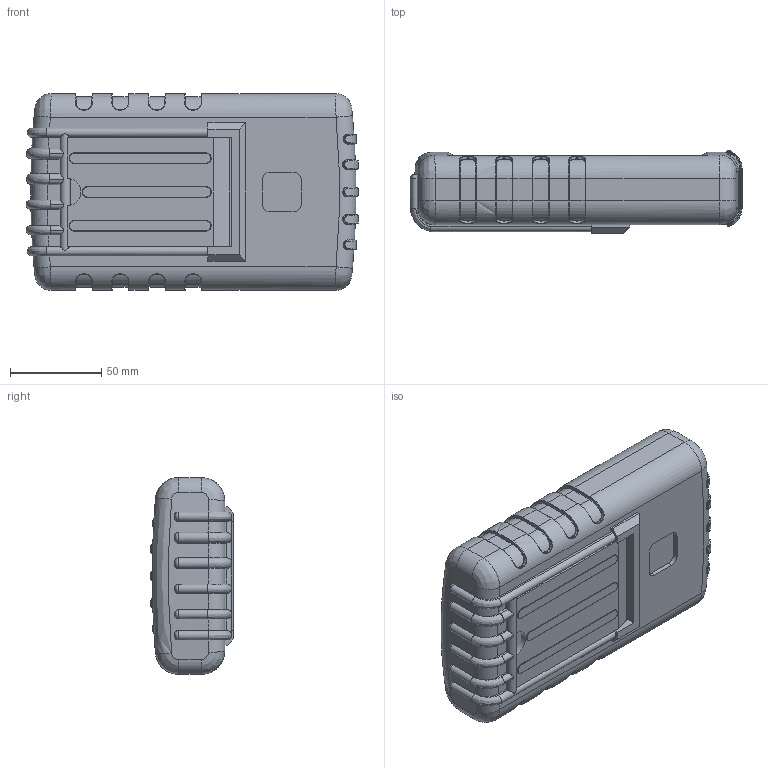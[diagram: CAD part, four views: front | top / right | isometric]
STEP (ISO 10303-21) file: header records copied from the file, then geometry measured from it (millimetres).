
FILE_DESCRIPTION (( 'STEP AP214' ), '1' );
FILE_NAME ('91-43-4A-R.STEP', '2020-10-19T17:38:47', ( 'Rudy' ), ( '' ), 'SwSTEP 2.0', 'SolidWorks 2014', '' );
FILE_SCHEMA (( 'AUTOMOTIVE_DESIGN' ));
Length unit declared in the file: millimetre
Products named in the file (8): 90 RBT; RT 90 stand; 90 PCB 29V-4AA; 4AAdoor; 91 LCD Top; 90-4AA Deep; 91-43-4A-R
Assembly tree (7 placements, depth 3):
  91-43-4A-R
    90-4AA Deep
    91 LCD Top
    4AAdoor
    90 PCB 29V-4AA
    90 RBT
      90 RBT
      RT 90 stand
Bounding box: 182.05 x 45.61 x 108 mm (x, y, z)
Volume: 359728.6 mm3; surface area: 207714.8 mm2
Topology: 6 solids, 6 shells, 1559 faces, 4067 edges, 2547 vertices
Faces by surface type: plane 728, cylinder 443, bspline 180, torus 128, cone 62, sphere 18
Entity records: 59798 total; most frequent: CARTESIAN_POINT 22289, ORIENTED_EDGE 8098, DIRECTION 7454, EDGE_CURVE 4049, AXIS2_PLACEMENT_3D 2558, VERTEX_POINT 2539, VECTOR 2338, LINE 2338
